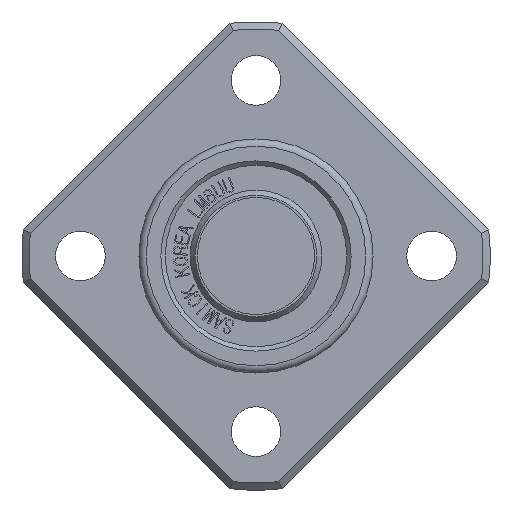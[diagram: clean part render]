
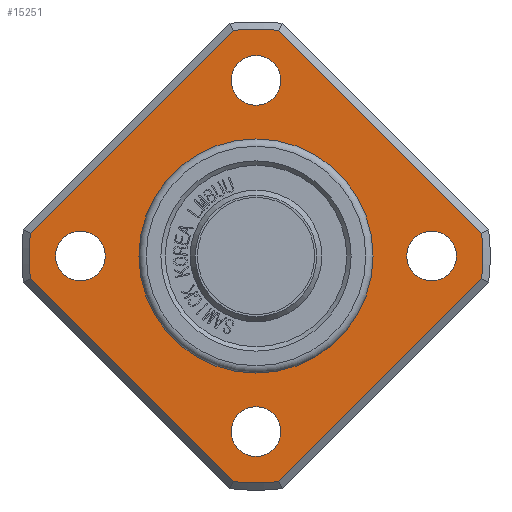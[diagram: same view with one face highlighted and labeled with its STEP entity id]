
A CAD part, front view. The second image highlights one B-rep face of the part: STEP entity #15251.
In plain terms, the highlighted planar face has unit normal (0, -1, 0).
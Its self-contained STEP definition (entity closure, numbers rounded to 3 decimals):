
#2171=FACE_BOUND('',#3211,.T.);
#2172=FACE_BOUND('',#3212,.T.);
#2173=FACE_BOUND('',#3213,.T.);
#2174=FACE_BOUND('',#3214,.T.);
#2175=FACE_BOUND('',#3215,.T.);
#2228=CIRCLE('',#16085,15.5);
#2243=CIRCLE('',#16107,15.5);
#2247=CIRCLE('',#16117,15.5);
#2248=CIRCLE('',#16119,15.5);
#2255=CIRCLE('',#16135,1.7);
#2259=CIRCLE('',#16142,1.7);
#2263=CIRCLE('',#16149,1.7);
#2267=CIRCLE('',#16156,1.7);
#2268=CIRCLE('',#16158,8.);
#2269=CIRCLE('',#16159,8.);
#2357=FACE_OUTER_BOUND('',#3210,.T.);
#3210=EDGE_LOOP('',(#10416,#10417,#10418,#10419,#10420,#10421,#10422,#10423));
#3211=EDGE_LOOP('',(#10424));
#3212=EDGE_LOOP('',(#10425));
#3213=EDGE_LOOP('',(#10426));
#3214=EDGE_LOOP('',(#10427));
#3215=EDGE_LOOP('',(#10428,#10429));
#4077=LINE('',#18260,#5185);
#4082=LINE('',#18312,#5190);
#4086=LINE('',#18328,#5194);
#4091=LINE('',#18363,#5199);
#5185=VECTOR('',#16443,10.);
#5190=VECTOR('',#16486,10.);
#5194=VECTOR('',#16494,10.);
#5199=VECTOR('',#16515,10.);
#6312=VERTEX_POINT('',#18255);
#6313=VERTEX_POINT('',#18259);
#6314=VERTEX_POINT('',#18265);
#6332=VERTEX_POINT('',#18311);
#6335=VERTEX_POINT('',#18323);
#6336=VERTEX_POINT('',#18327);
#6340=VERTEX_POINT('',#18341);
#6343=VERTEX_POINT('',#18362);
#6349=VERTEX_POINT('',#18402);
#6353=VERTEX_POINT('',#18415);
#6357=VERTEX_POINT('',#18428);
#6361=VERTEX_POINT('',#18441);
#6362=VERTEX_POINT('',#18445);
#6363=VERTEX_POINT('',#18446);
#7895=EDGE_CURVE('',#6312,#6313,#4077,.T.);
#7897=EDGE_CURVE('',#6314,#6313,#2228,.T.);
#7918=EDGE_CURVE('',#6314,#6332,#4082,.T.);
#7924=EDGE_CURVE('',#6335,#6336,#4086,.T.);
#7930=EDGE_CURVE('',#6340,#6336,#2243,.T.);
#7937=EDGE_CURVE('',#6340,#6343,#4091,.T.);
#7945=EDGE_CURVE('',#6312,#6343,#2247,.T.);
#7946=EDGE_CURVE('',#6335,#6332,#2248,.T.);
#7955=EDGE_CURVE('',#6349,#6349,#2255,.T.);
#7961=EDGE_CURVE('',#6353,#6353,#2259,.T.);
#7967=EDGE_CURVE('',#6357,#6357,#2263,.T.);
#7973=EDGE_CURVE('',#6361,#6361,#2267,.T.);
#7974=EDGE_CURVE('',#6362,#6363,#2268,.T.);
#7975=EDGE_CURVE('',#6363,#6362,#2269,.T.);
#10416=ORIENTED_EDGE('',*,*,#7895,.F.);
#10417=ORIENTED_EDGE('',*,*,#7945,.T.);
#10418=ORIENTED_EDGE('',*,*,#7937,.F.);
#10419=ORIENTED_EDGE('',*,*,#7930,.T.);
#10420=ORIENTED_EDGE('',*,*,#7924,.F.);
#10421=ORIENTED_EDGE('',*,*,#7946,.T.);
#10422=ORIENTED_EDGE('',*,*,#7918,.F.);
#10423=ORIENTED_EDGE('',*,*,#7897,.T.);
#10424=ORIENTED_EDGE('',*,*,#7955,.T.);
#10425=ORIENTED_EDGE('',*,*,#7961,.T.);
#10426=ORIENTED_EDGE('',*,*,#7967,.T.);
#10427=ORIENTED_EDGE('',*,*,#7973,.T.);
#10428=ORIENTED_EDGE('',*,*,#7974,.F.);
#10429=ORIENTED_EDGE('',*,*,#7975,.F.);
#14999=PLANE('',#16157);
#15251=ADVANCED_FACE('',(#2357,#2171,#2172,#2173,#2174,#2175),#14999,.T.);
#16085=AXIS2_PLACEMENT_3D('',#18266,#16446,#16447);
#16107=AXIS2_PLACEMENT_3D('',#18342,#16503,#16504);
#16117=AXIS2_PLACEMENT_3D('',#18380,#16528,#16529);
#16119=AXIS2_PLACEMENT_3D('',#18382,#16532,#16533);
#16135=AXIS2_PLACEMENT_3D('',#18404,#16566,#16567);
#16142=AXIS2_PLACEMENT_3D('',#18417,#16582,#16583);
#16149=AXIS2_PLACEMENT_3D('',#18430,#16598,#16599);
#16156=AXIS2_PLACEMENT_3D('',#18443,#16614,#16615);
#16157=AXIS2_PLACEMENT_3D('',#18444,#16616,#16617);
#16158=AXIS2_PLACEMENT_3D('',#18447,#16618,#16619);
#16159=AXIS2_PLACEMENT_3D('',#18448,#16620,#16621);
#16443=DIRECTION('',(-0.707,0.,-0.707));
#16446=DIRECTION('center_axis',(0.,-1.,0.));
#16447=DIRECTION('ref_axis',(1.,0.,0.));
#16486=DIRECTION('',(-0.707,0.,0.707));
#16494=DIRECTION('',(0.707,0.,0.707));
#16503=DIRECTION('center_axis',(0.,-1.,0.));
#16504=DIRECTION('ref_axis',(1.,0.,0.));
#16515=DIRECTION('',(0.707,0.,-0.707));
#16528=DIRECTION('center_axis',(0.,-1.,0.));
#16529=DIRECTION('ref_axis',(1.,0.,0.));
#16532=DIRECTION('center_axis',(0.,-1.,0.));
#16533=DIRECTION('ref_axis',(1.,0.,0.));
#16566=DIRECTION('center_axis',(0.,1.,0.));
#16567=DIRECTION('ref_axis',(0.,0.,
1.));
#16582=DIRECTION('center_axis',(0.,1.,0.));
#16583=DIRECTION('ref_axis',(-1.,0.,0.));
#16598=DIRECTION('center_axis',(0.,1.,0.));
#16599=DIRECTION('ref_axis',(0.,0.,
-1.));
#16614=DIRECTION('center_axis',(0.,1.,0.));
#16615=DIRECTION('ref_axis',(1.,0.,0.));
#16616=DIRECTION('center_axis',(0.,-1.,0.));
#16617=DIRECTION('ref_axis',(0.,0.,-1.));
#16618=DIRECTION('center_axis',(0.,-1.,0.));
#16619=DIRECTION('ref_axis',(1.,0.,0.));
#16620=DIRECTION('center_axis',(0.,-1.,0.));
#16621=DIRECTION('ref_axis',(1.,0.,0.));
#18255=CARTESIAN_POINT('',(15.422,17.5,-1.548));
#18259=CARTESIAN_POINT('',(1.548,17.5,-15.422));
#18260=CARTESIAN_POINT('',(14.016,17.5,-2.954));
#18265=CARTESIAN_POINT('',(-1.548,17.5,-15.422));
#18266=CARTESIAN_POINT('Origin',(0.,17.5,0.));
#18311=CARTESIAN_POINT('',(-15.422,17.5,-1.548));
#18312=CARTESIAN_POINT('',(-2.954,17.5,-14.016));
#18323=CARTESIAN_POINT('',(-15.422,17.5,1.548));
#18327=CARTESIAN_POINT('',(-1.548,17.5,15.422));
#18328=CARTESIAN_POINT('',(-10.016,17.5,6.954));
#18341=CARTESIAN_POINT('',(1.548,17.5,15.422));
#18342=CARTESIAN_POINT('Origin',(0.,17.5,0.));
#18362=CARTESIAN_POINT('',(15.422,17.5,1.548));
#18363=CARTESIAN_POINT('',(6.954,17.5,10.016));
#18380=CARTESIAN_POINT('Origin',(0.,17.5,0.));
#18382=CARTESIAN_POINT('Origin',(0.,17.5,0.));
#18402=CARTESIAN_POINT('',(0.,17.5,10.3));
#18404=CARTESIAN_POINT('Origin',(0.,17.5,12.));
#18415=CARTESIAN_POINT('',(-10.3,17.5,0.));
#18417=CARTESIAN_POINT('Origin',(-12.,17.5,0.));
#18428=CARTESIAN_POINT('',(0.,17.5,-10.3));
#18430=CARTESIAN_POINT('Origin',(0.,17.5,-12.));
#18441=CARTESIAN_POINT('',(10.3,17.5,0.));
#18443=CARTESIAN_POINT('Origin',(12.,17.5,0.));
#18444=CARTESIAN_POINT('Origin',(8.,17.5,0.));
#18445=CARTESIAN_POINT('',(8.,17.5,0.));
#18446=CARTESIAN_POINT('',(-8.,17.5,0.));
#18447=CARTESIAN_POINT('Origin',(0.,17.5,0.));
#18448=CARTESIAN_POINT('Origin',(0.,17.5,0.));
